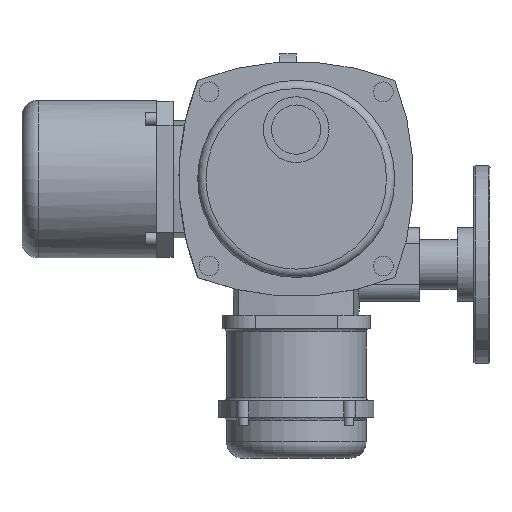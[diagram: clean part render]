
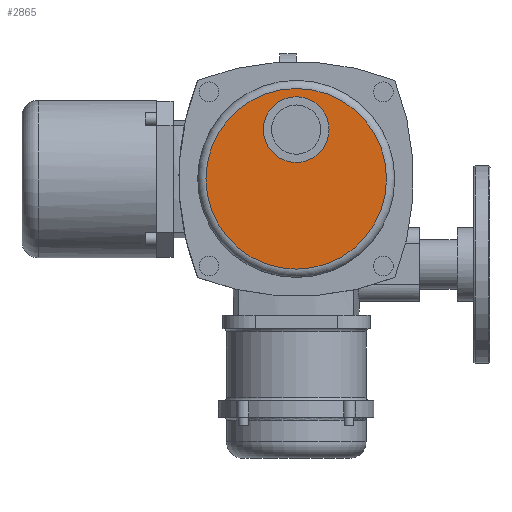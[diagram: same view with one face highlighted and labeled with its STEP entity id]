
A CAD part, top view. The second image highlights one B-rep face of the part: STEP entity #2865.
In plain terms, the highlighted planar face has unit normal (0, 0, 1).
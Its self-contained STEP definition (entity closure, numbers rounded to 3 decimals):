
#2865=ADVANCED_FACE('',(#5525,#5527),#5529,.T.);
#5525=FACE_BOUND('',#5526,.T.);
#5526=EDGE_LOOP('',(#7109));
#5527=FACE_BOUND('',#5528,.T.);
#5528=EDGE_LOOP('',(#7110));
#5529=PLANE('',#5530);
#5530=AXIS2_PLACEMENT_3D('',#5531,#5532,#5533);
#5531=CARTESIAN_POINT('',(5.,-8.,308.));
#5532=DIRECTION('',(0.,0.,1.));
#5533=DIRECTION('',(1.,0.,0.));
#7109=ORIENTED_EDGE('',*,*,#7828,.T.);
#7110=ORIENTED_EDGE('',*,*,#7889,.F.);
#7828=EDGE_CURVE('',#9008,#9008,#9009,.T.);
#7889=EDGE_CURVE('',#9100,#9100,#9101,.T.);
#9008=VERTEX_POINT('',#14016);
#9009=CIRCLE('',#14017,55.);
#9100=VERTEX_POINT('',#14273);
#9101=CIRCLE('',#14274,20.);
#14016=CARTESIAN_POINT('',(60.,-8.,308.));
#14017=AXIS2_PLACEMENT_3D('',#14018,#14019,#14020);
#14018=CARTESIAN_POINT('',(5.,-8.,308.));
#14019=DIRECTION('',(0.,0.,1.));
#14020=DIRECTION('',(1.,0.,0.));
#14273=CARTESIAN_POINT('',(25.,22.,308.));
#14274=AXIS2_PLACEMENT_3D('',#14275,#14276,#14277);
#14275=CARTESIAN_POINT('',(5.,22.,308.));
#14276=DIRECTION('',(0.,0.,1.));
#14277=DIRECTION('',(1.,0.,0.));
